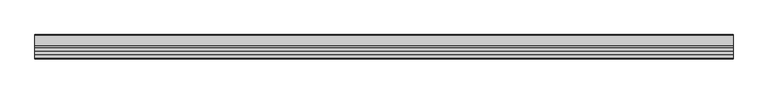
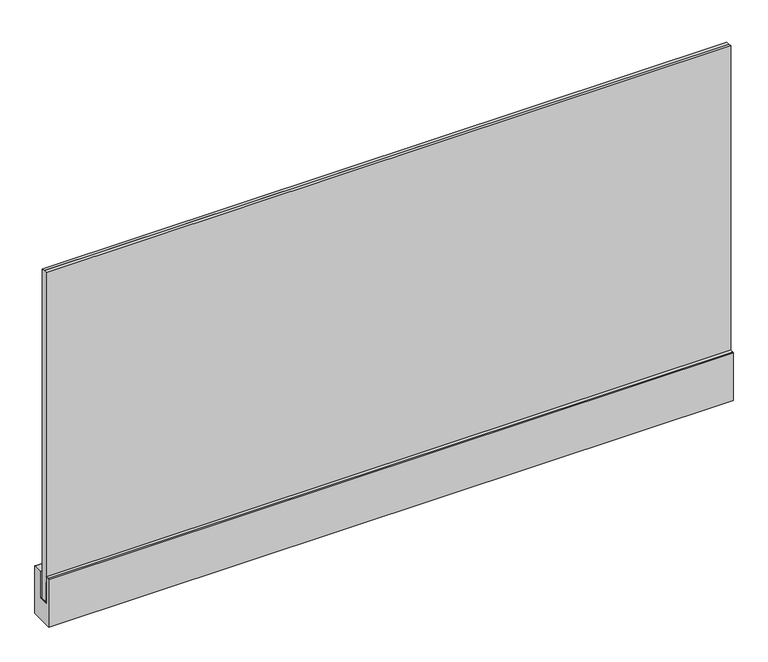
"""IFC4 building model written with IfcOpenShell, lengths in millimetres: railing geometry, Glass Railing (8+8) - Faraone - Ninfa 176 - Wall mounted - Without Handrail."""

from ifc_helpers import new_model, si_unit, point, frame, frame_2d, origin, place, context, project, spatial, polyline, circle_curve, trimmed, segment, composite_curve, outline, extrude, source, transform, mapped, element, save


def railing_3879eb3e(model_context):
    return source(origin(), model_context, "Body", "SweptSolid", [
        extrude(outline(polyline([(-559.7530669, -92.36), (-559.7530669, 1089.54), (-549.5030669, 1089.54), (-549.5030669, -91.56), (-548.5030669, -91.56), (-548.5030669, 1089.54), (-538.2530669, 1089.54), (-538.2530669, -92.36), (-559.7530669, -92.36)])), frame((4362.6376845, 0.0, 0.0), z_axis=(1.0, 0.0, 0.0), x_axis=(0.0, 1.0, 0.0)), (0.0, 0.0, 1.0), 2320.0),
        extrude(outline(composite_curve([segment(polyline([(-571.6256365, -0.0006325), (-561.7211959, -0.0006325), (-561.7211959, -95.3393625), (-529.9449379, -95.3393625), (-529.9449379, -0.0006325), (-497.464202, -0.0006325)]), True, "CONTINUOUS"), segment(trimmed(circle_curve(frame_2d((-497.464202, -3.0621312)), 3.0614987), [point((-497.464202, -0.0006325))], [point((-494.4027033, -3.0621312))], False, "CARTESIAN"), True, "CONTINUOUS"), segment(polyline([(-494.4027033, -3.0621312), (-494.4027033, -173.21), (-574.7462367, -173.21), (-574.7462367, -3.1212327)]), True, "CONTINUOUS"), segment(trimmed(circle_curve(frame_2d((-571.6256365, -3.1212327)), 3.1206002), [point((-574.7462367, -3.1212327))], [point((-571.6256365, -0.0006325))], False, "CARTESIAN"), True, "CONTINUOUS")], self_intersect=False)), frame((4362.6376845, 0.0, 0.0), z_axis=(1.0, 0.0, 0.0), x_axis=(0.0, 1.0, 0.0)), (0.0, 0.0, 1.0), 2320.0),
        extrude(outline(polyline([(-561.7249817, -95.34), (-561.7249817, -20.1108016), (-559.7510337, -20.1108016), (-559.7510337, -92.3609041), (-538.2411521, -92.3609041), (-538.2411521, -95.34), (-561.7249817, -95.34)])), frame((4362.6376845, 0.0, 0.0), z_axis=(1.0, 0.0, 0.0), x_axis=(0.0, 1.0, 0.0)), (0.0, 0.0, 1.0), 2320.0),
    ])


if __name__ == "__main__":
    model = new_model("IFC4")
    model_context = context("Model", 3, world=origin())
    ifc_project = project(units=[si_unit("LENGTHUNIT", "METRE", prefix="MILLI")], contexts=[model_context])
    site = spatial("IfcSite", under=ifc_project)
    building = spatial("IfcBuilding", under=site)
    placement = place(None, origin())
    railing_shape = railing_3879eb3e(model_context)
    element("IfcRailing", 1, ObjectType="Glass Railing (8+8) - Faraone - Ninfa 176 - Wall mounted - Without Handrail", at=placement, inside=building, context=model_context, shape_type="MappedRepresentation", body=[
        mapped(railing_shape, transform((0.0, 0.0, 0.0), x_axis=(1.0, 0.0, 0.0), y_axis=(0.0, 1.0, 0.0), z_axis=(0.0, 0.0, 1.0))),
    ])
    save(model, "model.ifc")
